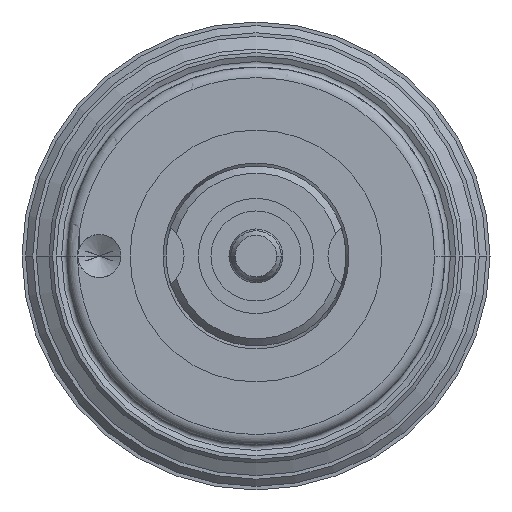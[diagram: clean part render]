
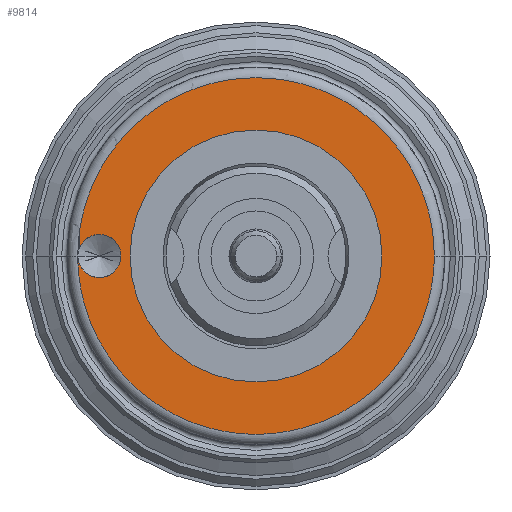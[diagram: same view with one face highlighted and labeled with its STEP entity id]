
A CAD part, left-side view. The second image highlights one B-rep face of the part: STEP entity #9814.
In plain terms, the highlighted planar face has unit normal (-1, 0, 0).
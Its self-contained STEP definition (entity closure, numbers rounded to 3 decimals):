
#3359=CARTESIAN_POINT('',(-3.37,0.,0.));
#3360=DIRECTION('',(-1.,0.,0.));
#3361=DIRECTION('',(0.,-1.,0.));
#3362=AXIS2_PLACEMENT_3D('',#3359,#3360,#3361);
#3367=CARTESIAN_POINT('',(-3.37,0.,0.));
#3368=DIRECTION('',(-1.,0.,0.));
#3369=DIRECTION('',(0.,1.,0.));
#3370=AXIS2_PLACEMENT_3D('',#3367,#3368,#3369);
#3375=CARTESIAN_POINT('',(-3.37,4.35,0.));
#3376=DIRECTION('',(-1.,0.,0.));
#3377=DIRECTION('',(0.,-1.,0.));
#3378=AXIS2_PLACEMENT_3D('',#3375,#3376,#3377);
#3383=CARTESIAN_POINT('',(-3.37,4.35,0.));
#3384=DIRECTION('',(-1.,0.,0.));
#3385=DIRECTION('',(0.,1.,0.));
#3386=AXIS2_PLACEMENT_3D('',#3383,#3384,#3385);
#3391=CARTESIAN_POINT('',(-3.37,0.,0.));
#3392=DIRECTION('',(-1.,0.,0.));
#3393=DIRECTION('',(0.,1.,0.));
#3394=AXIS2_PLACEMENT_3D('',#3391,#3392,#3393);
#3399=CARTESIAN_POINT('',(-3.37,0.,0.));
#3400=DIRECTION('',(-1.,0.,0.));
#3401=DIRECTION('',(0.,-1.,0.));
#3402=AXIS2_PLACEMENT_3D('',#3399,#3400,#3401);
#6497=CARTESIAN_POINT('',(-3.37,3.5,0.));
#6498=CARTESIAN_POINT('',(-3.37,-3.5,0.));
#6499=VERTEX_POINT('',#6497);
#6500=VERTEX_POINT('',#6498);
#6519=CARTESIAN_POINT('',(-3.37,4.95,0.));
#6520=VERTEX_POINT('',#6519);
#6521=CARTESIAN_POINT('',(-3.37,3.75,0.));
#6522=VERTEX_POINT('',#6521);
#6539=CARTESIAN_POINT('',(-3.37,-4.95,0.));
#6540=CARTESIAN_POINT('',(-3.37,4.95,0.));
#6541=VERTEX_POINT('',#6539);
#6542=VERTEX_POINT('',#6540);
#9792=CARTESIAN_POINT('',(-3.37,0.,0.));
#9793=DIRECTION('',(1.,0.,0.));
#9794=DIRECTION('',(0.,-1.,0.));
#9795=AXIS2_PLACEMENT_3D('',#9792,#9793,#9794);
#9796=PLANE('',#9795);
#9798=ORIENTED_EDGE('',*,*,#9797,.F.);
#9799=ORIENTED_EDGE('',*,*,#9782,.F.);
#9800=EDGE_LOOP('',(#9798,#9799));
#9801=FACE_OUTER_BOUND('',#9800,.F.);
#9803=ORIENTED_EDGE('',*,*,#9802,.T.);
#9805=ORIENTED_EDGE('',*,*,#9804,.T.);
#9806=EDGE_LOOP('',(#9803,#9805));
#9807=FACE_BOUND('',#9806,.F.);
#9809=ORIENTED_EDGE('',*,*,#9808,.T.);
#9811=ORIENTED_EDGE('',*,*,#9810,.T.);
#9812=EDGE_LOOP('',(#9809,#9811));
#9813=FACE_BOUND('',#9812,.F.);
#9814=ADVANCED_FACE('',(#9801,#9807,#9813),#9796,.F.);
#3363=CIRCLE('',#3362,4.95);
#3371=CIRCLE('',#3370,4.95);
#3379=CIRCLE('',#3378,0.6);
#3387=CIRCLE('',#3386,0.6);
#3395=CIRCLE('',#3394,3.5);
#3403=CIRCLE('',#3402,3.5);
#9782=EDGE_CURVE('',#6542,#6541,#3371,.T.);
#9797=EDGE_CURVE('',#6541,#6542,#3363,.T.);
#9802=EDGE_CURVE('',#6522,#6520,#3379,.T.);
#9804=EDGE_CURVE('',#6520,#6522,#3387,.T.);
#9808=EDGE_CURVE('',#6499,#6500,#3395,.T.);
#9810=EDGE_CURVE('',#6500,#6499,#3403,.T.);
